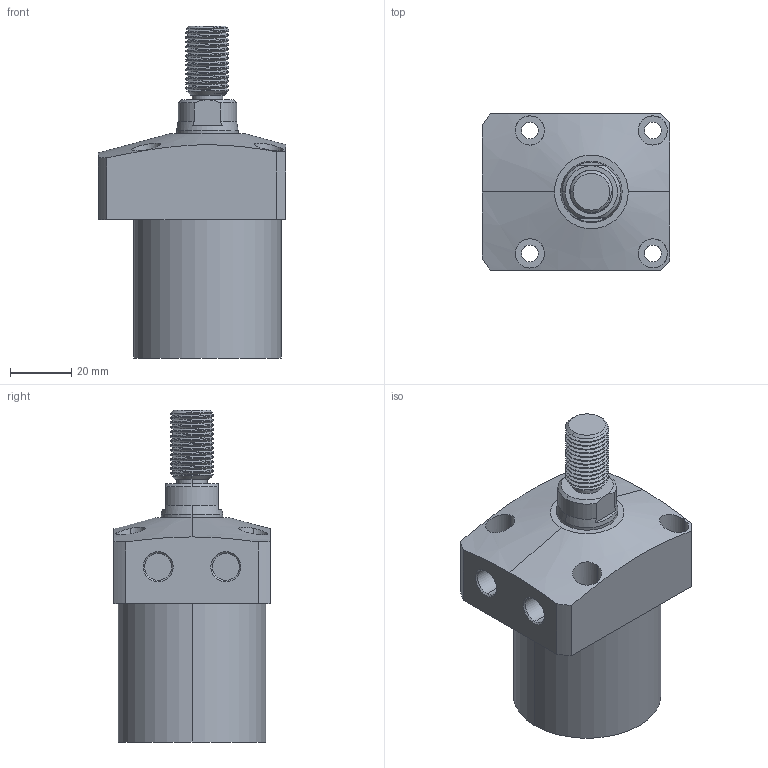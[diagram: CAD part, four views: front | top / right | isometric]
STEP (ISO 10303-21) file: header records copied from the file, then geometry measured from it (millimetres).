
FILE_DESCRIPTION (( 'STEP AP203' ), '1' );
FILE_NAME ('CLL-048CT-035.STEP', '2020-01-10T00:41:32', ( '' ), ( '' ), 'SwSTEP 2.0', 'SolidWorks 2015', '' );
FILE_SCHEMA (( 'CONFIG_CONTROL_DESIGN' ));
Length unit declared in the file: millimetre
Products named in the file (1): CLL-048CT-035
Bounding box: 61 x 51 x 108 mm (x, y, z)
Volume: 160431.7 mm3; surface area: 22784.7 mm2
Topology: 1 solids, 1 shells, 106 faces, 264 edges, 172 vertices
Faces by surface type: cylinder 63, plane 25, cone 16, bspline 2
Entity records: 5173 total; most frequent: CARTESIAN_POINT 2704, ORIENTED_EDGE 528, DIRECTION 470, EDGE_CURVE 264, AXIS2_PLACEMENT_3D 187, VERTEX_POINT 172, EDGE_LOOP 126, FACE_OUTER_BOUND 106
